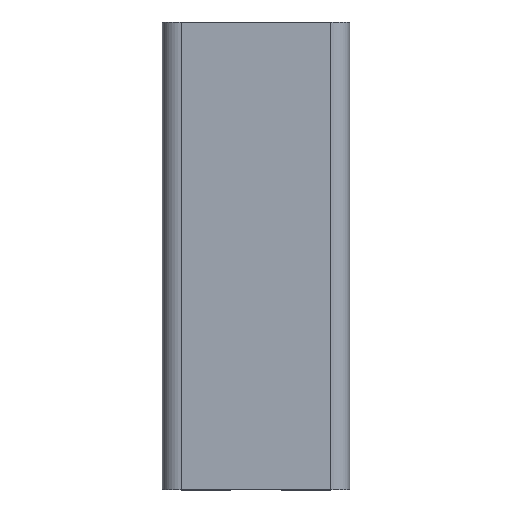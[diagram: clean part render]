
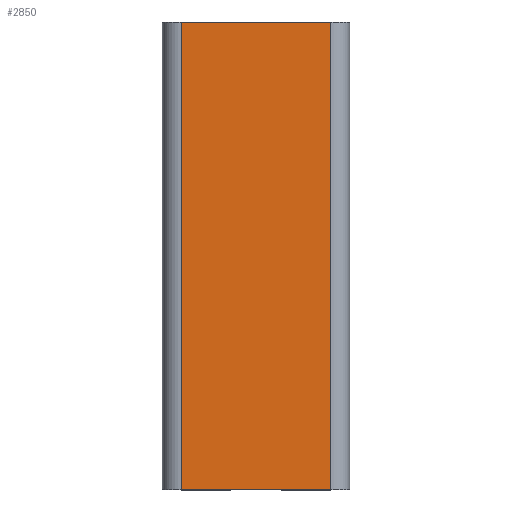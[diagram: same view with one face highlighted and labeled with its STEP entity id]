
A CAD part, top view. The second image highlights one B-rep face of the part: STEP entity #2850.
In plain terms, the highlighted planar face has unit normal (0, 0, 1).
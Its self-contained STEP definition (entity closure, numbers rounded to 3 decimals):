
#43 = LINE ( 'NONE', #2918, #897 ) ;
#58 = LINE ( 'NONE', #1610, #1726 ) ;
#181 = VECTOR ( 'NONE', #1978, 1000. ) ;
#557 = CARTESIAN_POINT ( 'NONE',  ( -16., -50., 0. ) ) ;
#845 = CARTESIAN_POINT ( 'NONE',  ( -16., 50., 0. ) ) ;
#897 = VECTOR ( 'NONE', #2044, 1000. ) ;
#927 = DIRECTION ( 'NONE',  ( 1., 0., 0. ) ) ;
#932 = AXIS2_PLACEMENT_3D ( 'NONE', #845, #2002, #2649 ) ;
#972 = VERTEX_POINT ( 'NONE', #557 ) ;
#1001 = ORIENTED_EDGE ( 'NONE', *, *, #2324, .F. ) ;
#1016 = ORIENTED_EDGE ( 'NONE', *, *, #1774, .T. ) ;
#1134 = VERTEX_POINT ( 'NONE', #1518 ) ;
#1148 = CARTESIAN_POINT ( 'NONE',  ( -16., 50., 0. ) ) ;
#1300 = VECTOR ( 'NONE', #927, 1000. ) ;
#1350 = ORIENTED_EDGE ( 'NONE', *, *, #2811, .T. ) ;
#1370 = LINE ( 'NONE', #1148, #1300 ) ;
#1507 = LINE ( 'NONE', #1532, #181 ) ;
#1518 = CARTESIAN_POINT ( 'NONE',  ( 16., -50., 0. ) ) ;
#1532 = CARTESIAN_POINT ( 'NONE',  ( -16., -50., 0. ) ) ;
#1610 = CARTESIAN_POINT ( 'NONE',  ( -16., 50., 0. ) ) ;
#1645 = CARTESIAN_POINT ( 'NONE',  ( 16., 50., 0. ) ) ;
#1726 = VECTOR ( 'NONE', #2525, 1000. ) ;
#1744 = EDGE_CURVE ( 'NONE', #2404, #2018, #1370, .T. ) ;
#1774 = EDGE_CURVE ( 'NONE', #2404, #972, #58, .T. ) ;
#1978 = DIRECTION ( 'NONE',  ( 1., 0., 0. ) ) ;
#2002 = DIRECTION ( 'NONE',  ( 0., 0., -1. ) ) ;
#2014 = CARTESIAN_POINT ( 'NONE',  ( -16., 50., 0. ) ) ;
#2018 = VERTEX_POINT ( 'NONE', #1645 ) ;
#2044 = DIRECTION ( 'NONE',  ( 0., -1., 0. ) ) ;
#2218 = EDGE_LOOP ( 'NONE', ( #1350, #1001, #2843, #1016 ) ) ;
#2324 = EDGE_CURVE ( 'NONE', #2018, #1134, #43, .T. ) ;
#2404 = VERTEX_POINT ( 'NONE', #2014 ) ;
#2423 = FACE_OUTER_BOUND ( 'NONE', #2218, .T. ) ;
#2525 = DIRECTION ( 'NONE',  ( 0., -1., 0. ) ) ;
#2649 = DIRECTION ( 'NONE',  ( -1., 0., 0. ) ) ;
#2660 = PLANE ( 'NONE',  #932 ) ;
#2811 = EDGE_CURVE ( 'NONE', #972, #1134, #1507, .T. ) ;
#2843 = ORIENTED_EDGE ( 'NONE', *, *, #1744, .F. ) ;
#2850 = ADVANCED_FACE ( 'NONE', ( #2423 ), #2660, .F. ) ;
#2918 = CARTESIAN_POINT ( 'NONE',  ( 16., 50., 0. ) ) ;
